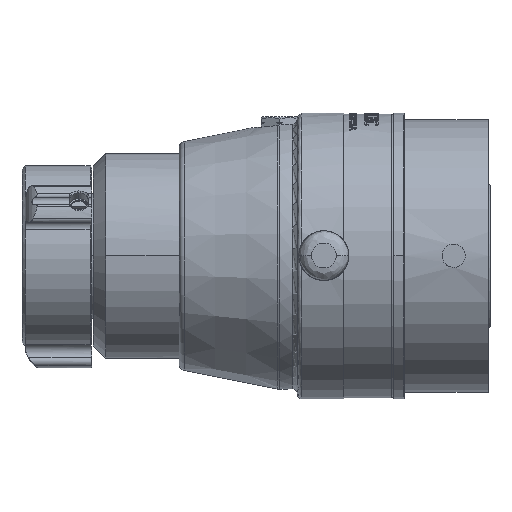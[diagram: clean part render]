
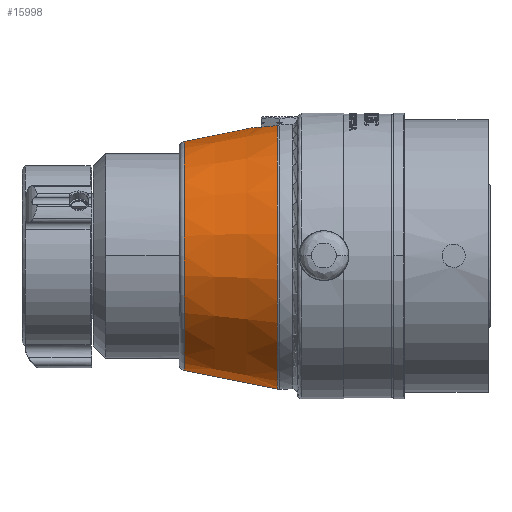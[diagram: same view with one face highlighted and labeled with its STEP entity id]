
A CAD part, top view. The second image highlights one B-rep face of the part: STEP entity #15998.
In plain terms, the highlighted conical face has half-angle 11.227 degrees and reference radius 63.248 mm.
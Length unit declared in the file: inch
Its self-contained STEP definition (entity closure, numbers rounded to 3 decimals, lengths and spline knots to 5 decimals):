
#15158=CARTESIAN_POINT('',(4.22865,0.,0.));
#15159=DIRECTION('',(1.,0.,0.));
#15160=DIRECTION('',(0.,0.983,0.186));
#15161=AXIS2_PLACEMENT_3D('',#15158,#15159,#15160);
#15163=DIRECTION('',(0.981,-0.195,0.));
#15164=VECTOR('',#15163,1.91182);
#15165=CARTESIAN_POINT('',(2.35341,-2.30398,
0.));
#15166=LINE('',#15165,#15164);
#15167=CARTESIAN_POINT('',(2.35341,0.,0.));
#15168=DIRECTION('',(-1.,0.,0.));
#15169=DIRECTION('',(0.,-1.,0.));
#15170=AXIS2_PLACEMENT_3D('',#15167,#15168,#15169);
#15172=DIRECTION('',(0.981,0.195,0.));
#15173=VECTOR('',#15172,1.45213);
#15174=CARTESIAN_POINT('',(2.35341,2.30398,
0.));
#15175=LINE('',#15174,#15173);
#15176=CARTESIAN_POINT('',(4.22865,2.62955,
0.49758));
#15177=CARTESIAN_POINT('',(4.19862,2.62405,
0.49462));
#15178=CARTESIAN_POINT('',(4.13894,2.61415,
0.48323));
#15179=CARTESIAN_POINT('',(4.05341,2.60291,
0.44999));
#15180=CARTESIAN_POINT('',(3.97502,2.59518,
0.40147));
#15181=CARTESIAN_POINT('',(3.9068,2.59047,
0.33945));
#15182=CARTESIAN_POINT('',(3.85097,2.58801,
0.26589));
#15183=CARTESIAN_POINT('',(3.80946,2.58701,
0.18321));
#15184=CARTESIAN_POINT('',(3.78367,2.58673,
0.09377));
#15185=CARTESIAN_POINT('',(3.77775,2.58671,0.03135));
#15186=CARTESIAN_POINT('',(3.77775,2.58671,0.));
#15517=CARTESIAN_POINT('',(4.22865,2.62955,
0.49758));
#15868=CARTESIAN_POINT('',(3.77775,2.58671,0.));
#15869=VERTEX_POINT('',#15868);
#15898=CARTESIAN_POINT('',(2.35341,2.30398,0.));
#15899=CARTESIAN_POINT('',(2.35341,-2.30398,0.));
#15900=VERTEX_POINT('',#15898);
#15901=VERTEX_POINT('',#15899);
#15920=CARTESIAN_POINT('',(4.22865,-2.67622,0.));
#15921=VERTEX_POINT('',#15920);
#15922=VERTEX_POINT('',#15517);
#15982=CARTESIAN_POINT('',(3.29103,0.,0.));
#15983=DIRECTION('',(1.,0.,0.));
#15984=DIRECTION('',(0.,1.,0.));
#15985=AXIS2_PLACEMENT_3D('',#15982,#15983,#15984);
#15986=CONICAL_SURFACE('',#15985,2.4901,11.227);
#15988=ORIENTED_EDGE('',*,*,#15987,.T.);
#15990=ORIENTED_EDGE('',*,*,#15989,.F.);
#15991=ORIENTED_EDGE('',*,*,#15976,.T.);
#15993=ORIENTED_EDGE('',*,*,#15992,.T.);
#15995=ORIENTED_EDGE('',*,*,#15994,.F.);
#15996=EDGE_LOOP('',(#15988,#15990,#15991,#15993,#15995));
#15997=FACE_OUTER_BOUND('',#15996,.F.);
#15998=ADVANCED_FACE('',(#15997),#15986,.T.);
#15162=CIRCLE('',#15161,2.67622);
#15171=CIRCLE('',#15170,2.30398);
#15187=B_SPLINE_CURVE_WITH_KNOTS('',3,(#15176,#15177,#15178,#15179,#15180,
#15181,#15182,#15183,#15184,#15185,#15186),.UNSPECIFIED.,.F.,.F.,(4,1,1,1,1,1,1,
1,4),(0.,0.125,0.25,0.375,0.5,0.625,0.75,0.875,1.),
.UNSPECIFIED.);
#15976=EDGE_CURVE('',#15901,#15900,#15171,.T.);
#15987=EDGE_CURVE('',#15922,#15921,#15162,.T.);
#15989=EDGE_CURVE('',#15901,#15921,#15166,.T.);
#15992=EDGE_CURVE('',#15900,#15869,#15175,.T.);
#15994=EDGE_CURVE('',#15922,#15869,#15187,.T.);
